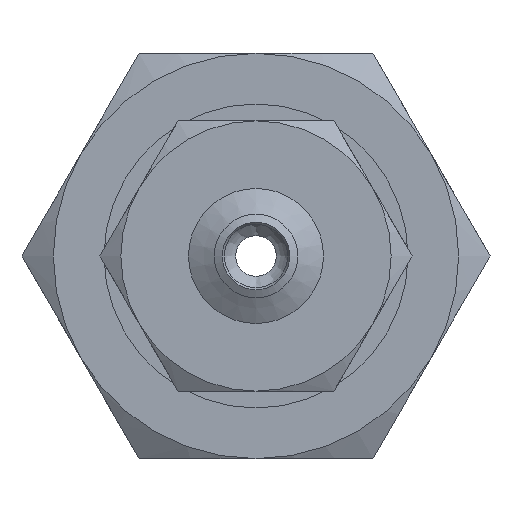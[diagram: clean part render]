
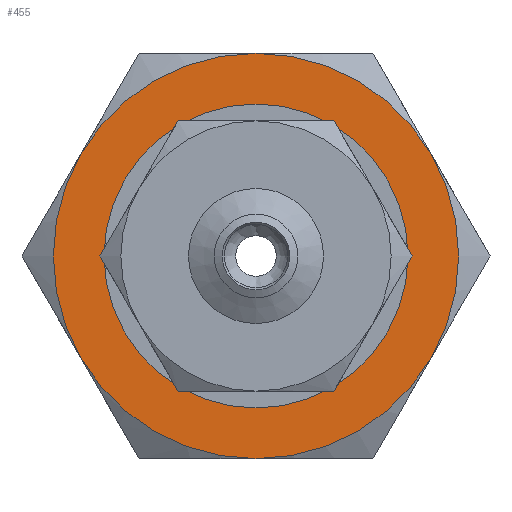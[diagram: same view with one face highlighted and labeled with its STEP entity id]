
A CAD part, front view. The second image highlights one B-rep face of the part: STEP entity #455.
In plain terms, the highlighted planar face has unit normal (0, -1, 0) as drawn and (-1, 0, 0) by its records, which use the part's own axes.
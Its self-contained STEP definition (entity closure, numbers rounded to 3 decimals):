
#455=ADVANCED_FACE('',(#629,#630),#631,.F.);
#629=FACE_BOUND('',#870,.T.);
#630=FACE_OUTER_BOUND('',#871,.T.);
#631=PLANE('',#872);
#870=EDGE_LOOP('',(#1419));
#871=EDGE_LOOP('',(#1420,#1421,#1422,#1423,#1424,#1425));
#872=AXIS2_PLACEMENT_3D('',#1426,#1427,#1428);
#1419=ORIENTED_EDGE('',*,*,#1783,.T.);
#1420=ORIENTED_EDGE('',*,*,#1782,.F.);
#1421=ORIENTED_EDGE('',*,*,#1755,.F.);
#1422=ORIENTED_EDGE('',*,*,#1747,.F.);
#1423=ORIENTED_EDGE('',*,*,#1774,.F.);
#1424=ORIENTED_EDGE('',*,*,#1777,.F.);
#1425=ORIENTED_EDGE('',*,*,#1785,.F.);
#1426=CARTESIAN_POINT('',(0.,0.0,0.0));
#1427=DIRECTION('',(1.0,0.0,0.0));
#1428=DIRECTION('',(0.0,1.0,0.0));
#1747=EDGE_CURVE('',#1984,#1985,#1986,.T.);
#1755=EDGE_CURVE('',#1985,#1999,#2000,.T.);
#1774=EDGE_CURVE('',#2032,#1984,#2033,.T.);
#1777=EDGE_CURVE('',#2019,#2032,#2036,.T.);
#1782=EDGE_CURVE('',#1999,#2040,#2043,.T.);
#1783=EDGE_CURVE('',#2044,#2044,#2045,.T.);
#1785=EDGE_CURVE('',#2040,#2019,#2048,.T.);
#1984=VERTEX_POINT('',#2374);
#1985=VERTEX_POINT('',#2375);
#1986=CIRCLE('',#2376,6.0);
#1999=VERTEX_POINT('',#2441);
#2000=CIRCLE('',#2442,6.0);
#2019=VERTEX_POINT('',#2524);
#2032=VERTEX_POINT('',#2598);
#2033=CIRCLE('',#2599,6.0);
#2036=CIRCLE('',#2622,6.0);
#2040=VERTEX_POINT('',#2646);
#2043=CIRCLE('',#2669,6.0);
#2044=VERTEX_POINT('',#2670);
#2045=CIRCLE('',#2671,4.0);
#2048=CIRCLE('',#2674,6.0);
#2374=CARTESIAN_POINT('',(0.,-5.196,-3.0));
#2375=CARTESIAN_POINT('',(0.,0.0,-6.0));
#2376=AXIS2_PLACEMENT_3D('',#2902,#2903,#2904);
#2441=CARTESIAN_POINT('',(0.,5.196,-3.0));
#2442=AXIS2_PLACEMENT_3D('',#2907,#2908,#2909);
#2524=CARTESIAN_POINT('',(0.,0.0,6.0));
#2598=CARTESIAN_POINT('',(0.,-5.196,3.0));
#2599=AXIS2_PLACEMENT_3D('',#2920,#2921,#2922);
#2622=AXIS2_PLACEMENT_3D('',#2923,#2924,#2925);
#2646=CARTESIAN_POINT('',(0.,5.196,3.0));
#2669=AXIS2_PLACEMENT_3D('',#2926,#2927,#2928);
#2670=CARTESIAN_POINT('',(0.,0.0,-4.0));
#2671=AXIS2_PLACEMENT_3D('',#2929,#2930,#2931);
#2674=AXIS2_PLACEMENT_3D('',#2935,#2936,#2937);
#2902=CARTESIAN_POINT('',(0.,0.0,0.0));
#2903=DIRECTION('',(1.0,0.0,0.0));
#2904=DIRECTION('',(0.0,0.0,-1.0));
#2907=CARTESIAN_POINT('',(0.,0.0,0.0));
#2908=DIRECTION('',(1.0,0.0,0.0));
#2909=DIRECTION('',(0.0,0.0,-1.0));
#2920=CARTESIAN_POINT('',(0.,0.0,0.0));
#2921=DIRECTION('',(1.0,0.0,0.0));
#2922=DIRECTION('',(0.0,0.0,-1.0));
#2923=CARTESIAN_POINT('',(0.,0.0,0.0));
#2924=DIRECTION('',(1.0,0.0,0.0));
#2925=DIRECTION('',(0.0,0.0,-1.0));
#2926=CARTESIAN_POINT('',(0.,0.0,0.0));
#2927=DIRECTION('',(1.0,0.0,0.0));
#2928=DIRECTION('',(0.0,0.0,-1.0));
#2929=CARTESIAN_POINT('',(0.,0.0,0.0));
#2930=DIRECTION('',(1.0,0.0,0.0));
#2931=DIRECTION('',(0.0,0.0,-1.0));
#2935=CARTESIAN_POINT('',(0.,0.0,0.0));
#2936=DIRECTION('',(1.0,0.0,0.0));
#2937=DIRECTION('',(0.0,0.0,-1.0));
